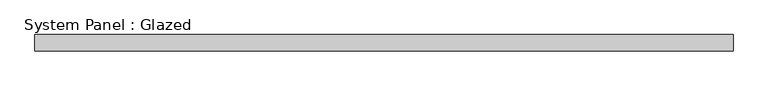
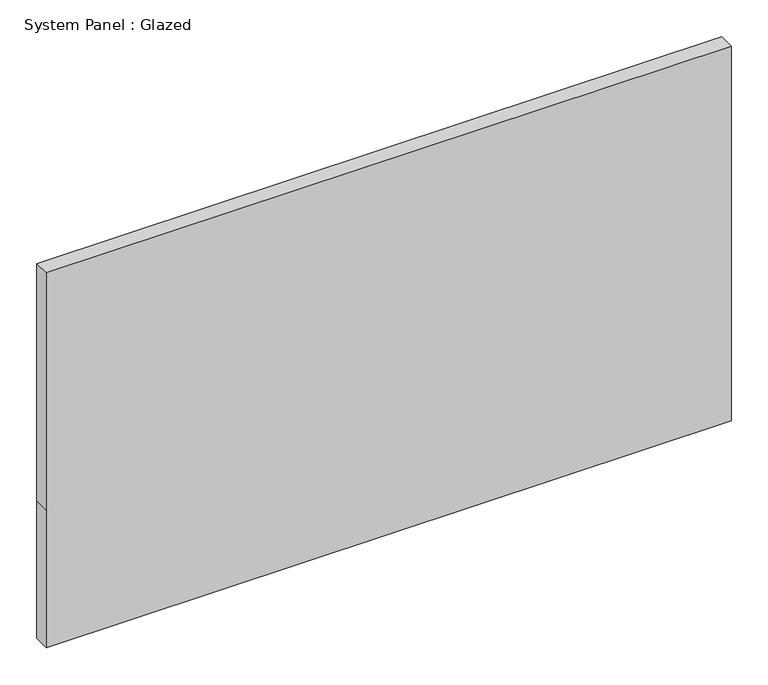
"""IFC4 building model written with IfcOpenShell, lengths in millimetres: plate geometry, System Panel : Glazed."""

from ifc_helpers import new_model, si_unit, frame, origin, place, context, project, spatial, polyline, outline, extrude, source, transform, mapped, element, save


def system_panel_glazed_a07b40ec(model_context):
    return source(origin(), model_context, "Body", "SweptSolid", [
        extrude(outline(polyline([(0.0, -537.9357144), (0.0, 537.9357144), (228.6, 537.9357144), (622.3, 537.9357144), (622.3, -537.9357144), (228.6, -537.9357144), (0.0, -537.9357144)])), frame((0.0, 19.05, 0.0), z_axis=(0.0, 1.0, 0.0), x_axis=(0.0, 0.0, 1.0)), (0.0, 0.0, 1.0), 25.4),
    ])


if __name__ == "__main__":
    model = new_model("IFC4")
    model_context = context("Model", 3, world=origin())
    ifc_project = project(units=[si_unit("LENGTHUNIT", "METRE", prefix="MILLI")], contexts=[model_context])
    site = spatial("IfcSite", under=ifc_project)
    building = spatial("IfcBuilding", under=site)
    placement = place(None, origin())
    system_panel_glazed_shape = system_panel_glazed_a07b40ec(model_context)
    element("IfcPlate", 1, ObjectType="System Panel : Glazed", at=placement, inside=building, context=model_context, shape_type="MappedRepresentation", body=[
        mapped(system_panel_glazed_shape, transform((0.0, 0.0, 0.0), x_axis=(1.0, 0.0, 0.0), y_axis=(0.0, 1.0, 0.0), z_axis=(0.0, 0.0, 1.0))),
    ])
    save(model, "model.ifc")
